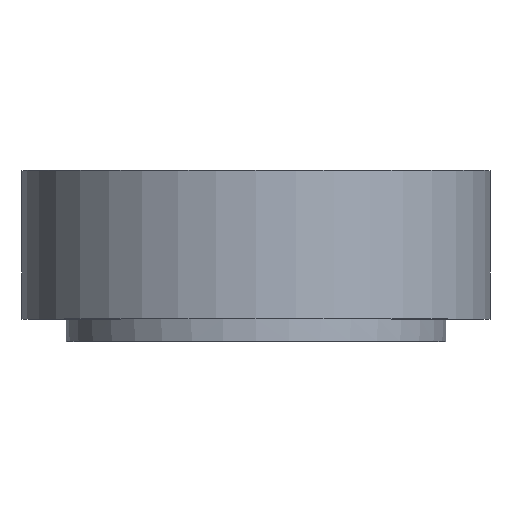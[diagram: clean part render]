
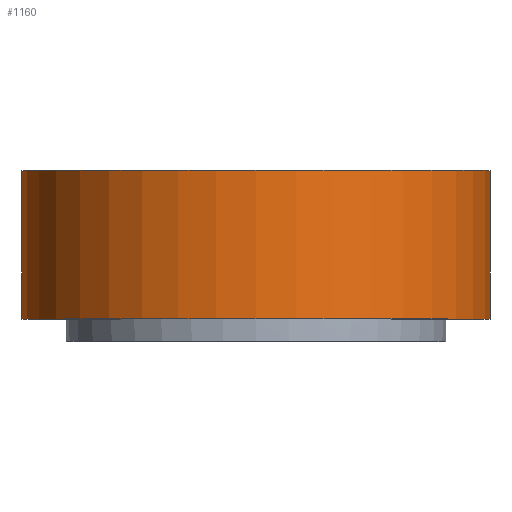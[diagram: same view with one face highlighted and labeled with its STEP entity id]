
A CAD part, top view. The second image highlights one B-rep face of the part: STEP entity #1160.
In plain terms, the highlighted cylindrical face has radius 31.5 mm (diameter 63 mm), a partial arc.
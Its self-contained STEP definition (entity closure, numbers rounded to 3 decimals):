
#1160=ADVANCED_FACE('', (#1170), #1180, .T.);
#2740=AXIS2_PLACEMENT_3D('Ax2Pl3d', #2750, #2760, #2770);
#2940=AXIS2_PLACEMENT_3D('Ax2Pl3d', #2950, #2960, #2970);
#3980=AXIS2_PLACEMENT_3D('Ax2Pl3d', #3990, #4000, #4010);
#5440=CARTESIAN_POINT('', (183.984,10.,70.159));
#2750=CARTESIAN_POINT('HicPkt', (212.063,10.,84.435));
#5450=CARTESIAN_POINT('', (240.142,10.,70.159));
#5520=CARTESIAN_POINT('', (183.984,-10.,70.159));
#5570=CARTESIAN_POINT('', (240.142,-10.,70.159));
#2950=CARTESIAN_POINT('HicPkt', (212.063,-10.,84.435));
#3990=CARTESIAN_POINT('HicPkt', (212.063,10.,
84.435));
#5750=CARTESIAN_POINT('', (183.984,-10.,70.159));
#5760=CARTESIAN_POINT('', (240.142,-10.,70.159));
#6210=CIRCLE('Circle', #2740, 31.5);
#6240=CIRCLE('Circle', #2940, 31.5);
#1180=CYLINDRICAL_SURFACE('Zyl', #3980, 31.5);
#2760=DIRECTION('Axis', (0.,-1.,
0.));
#2770=DIRECTION('RefDirection', (0.,
0.,-1.));
#2960=DIRECTION('Axis', (0.,-1.,0.)
);
#2970=DIRECTION('RefDirection', (0.,
0.,-1.));
#4000=DIRECTION('Axis', (0.,-1.,0.)
);
#4010=DIRECTION('RefDirection', (0.,
0.,-1.));
#9230=DIRECTION('', (0.,-1.,0.));
#9240=DIRECTION('', (0.,-1.,0.));
#10050=EDGE_CURVE('', #10060, #10030, #6210, .T.);
#10260=EDGE_CURVE('', #10240, #10170, #6240, .T.);
#10550=EDGE_CURVE('', #10030, #10170, #10560, .T.);
#10570=EDGE_CURVE('', #10060, #10240, #10580, .T.);
#12560=EDGE_LOOP('Edge_loop', (#12570,#12580,#12590,#12600));
#1170=FACE_OUTER_BOUND('Face_outer_bound', #12560, .T.);
#10560=LINE('Line', #5750, #14060);
#10580=LINE('Line', #5760, #14070);
#12570=ORIENTED_EDGE('', *, *, #10550, .T.);
#12580=ORIENTED_EDGE('', *, *, #10260, .F.);
#12590=ORIENTED_EDGE('', *, *, #10570, .F.);
#12600=ORIENTED_EDGE('', *, *, #10050, .T.);
#14060=VECTOR('', #9230, 20.);
#14070=VECTOR('', #9240, 20.);
#10030=VERTEX_POINT('', #5440);
#10060=VERTEX_POINT('', #5450);
#10170=VERTEX_POINT('', #5520);
#10240=VERTEX_POINT('', #5570);
